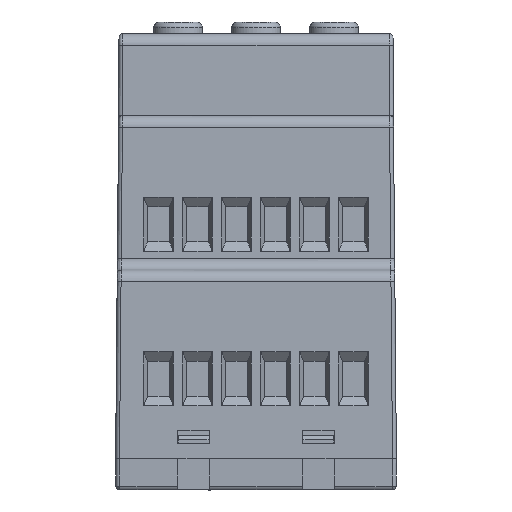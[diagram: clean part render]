
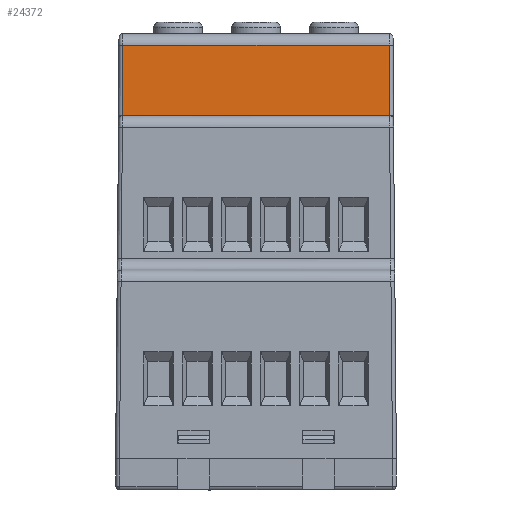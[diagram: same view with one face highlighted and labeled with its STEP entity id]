
A CAD part, left-side view. The second image highlights one B-rep face of the part: STEP entity #24372.
In plain terms, the highlighted planar face has unit normal (-1, 0, 0.009).
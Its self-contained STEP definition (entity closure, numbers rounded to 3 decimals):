
#328 = LINE ( 'NONE', #26505, #28980 ) ;
#534 = DIRECTION ( 'NONE',  ( 0., -1., 0. ) ) ;
#756 = ORIENTED_EDGE ( 'NONE', *, *, #30590, .T. ) ;
#1361 = ORIENTED_EDGE ( 'NONE', *, *, #30937, .T. ) ;
#1772 = ORIENTED_EDGE ( 'NONE', *, *, #13780, .T. ) ;
#2535 = VERTEX_POINT ( 'NONE', #28382 ) ;
#2544 = CARTESIAN_POINT ( 'NONE',  ( -22.6, 13.537, 42. ) ) ;
#2585 = EDGE_CURVE ( 'NONE', #9949, #2535, #23545, .T. ) ;
#2615 = EDGE_CURVE ( 'NONE', #15305, #15178, #21282, .T. ) ;
#3867 = DIRECTION ( 'NONE',  ( 0., 1., 0. ) ) ;
#4224 = VERTEX_POINT ( 'NONE', #15043 ) ;
#4784 = EDGE_CURVE ( 'NONE', #2535, #30645, #34139, .T. ) ;
#5043 = VERTEX_POINT ( 'NONE', #30327 ) ;
#5079 = VECTOR ( 'NONE', #24480, 1000. ) ;
#6227 = CARTESIAN_POINT ( 'NONE',  ( -22.609, 0., 41. ) ) ;
#6264 = DIRECTION ( 'NONE',  ( 0., -1., 0. ) ) ;
#6283 = CARTESIAN_POINT ( 'NONE',  ( -22.6, 13.5, 42. ) ) ;
#6290 = VERTEX_POINT ( 'NONE', #25815 ) ;
#6376 = LINE ( 'NONE', #26377, #35417 ) ;
#6411 = LINE ( 'NONE', #28872, #15811 ) ;
#6559 = CARTESIAN_POINT ( 'NONE',  ( -22.6, 0., 42. ) ) ;
#6770 = VECTOR ( 'NONE', #27694, 1000. ) ;
#6908 = EDGE_CURVE ( 'NONE', #30645, #6290, #6376, .T. ) ;
#7090 =( BOUNDED_CURVE ( )  B_SPLINE_CURVE ( 3, ( #22728, #11485, #28232, #8734 ),
 .UNSPECIFIED., .F., .F. ) 
 B_SPLINE_CURVE_WITH_KNOTS ( ( 4, 4 ),
 ( 3.142, 3.201 ),
 .UNSPECIFIED. ) 
 CURVE ( )  GEOMETRIC_REPRESENTATION_ITEM ( )  RATIONAL_B_SPLINE_CURVE ( ( 1., 1., 1., 1. ) ) 
 REPRESENTATION_ITEM ( '' )  );
#7202 = CARTESIAN_POINT ( 'NONE',  ( -22.6, -10.463, 42. ) ) ;
#7540 = EDGE_CURVE ( 'NONE', #15178, #9949, #36689, .T. ) ;
#8292 = EDGE_CURVE ( 'NONE', #28171, #33099, #18300, .T. ) ;
#8582 = VERTEX_POINT ( 'NONE', #30254 ) ;
#8734 = CARTESIAN_POINT ( 'NONE',  ( -22.599, 17.15, 42. ) ) ;
#9293 = ORIENTED_EDGE ( 'NONE', *, *, #28602, .T. ) ;
#9851 = ORIENTED_EDGE ( 'NONE', *, *, #13733, .T. ) ;
#9949 = VERTEX_POINT ( 'NONE', #6283 ) ;
#9994 = VERTEX_POINT ( 'NONE', #17667 ) ;
#10115 = LINE ( 'NONE', #33524, #13686 ) ;
#10227 = EDGE_CURVE ( 'NONE', #23403, #12608, #328, .T. ) ;
#10280 = VECTOR ( 'NONE', #534, 1000. ) ;
#10321 = ORIENTED_EDGE ( 'NONE', *, *, #24559, .T. ) ;
#11031 = CARTESIAN_POINT ( 'NONE',  ( -22.521, 17.071, 51.013 ) ) ;
#11485 = CARTESIAN_POINT ( 'NONE',  ( -22.6, 17.13, 42. ) ) ;
#11694 = ORIENTED_EDGE ( 'NONE', *, *, #8292, .T. ) ;
#12463 = CARTESIAN_POINT ( 'NONE',  ( -22.6, -10.5, 42. ) ) ;
#12608 = VERTEX_POINT ( 'NONE', #11031 ) ;
#13686 = VECTOR ( 'NONE', #36636, 1000. ) ;
#13733 = EDGE_CURVE ( 'NONE', #27254, #23403, #6411, .T. ) ;
#13780 = EDGE_CURVE ( 'NONE', #5043, #26873, #23417, .T. ) ;
#14088 = CARTESIAN_POINT ( 'NONE',  ( -22.6, 17.12, 42. ) ) ;
#14357 = DIRECTION ( 'NONE',  ( 0.009, 0.009, 1. ) ) ;
#14506 = ORIENTED_EDGE ( 'NONE', *, *, #27917, .F. ) ;
#14770 = CARTESIAN_POINT ( 'NONE',  ( -22.6, 18., 42. ) ) ;
#15043 = CARTESIAN_POINT ( 'NONE',  ( -22.599, 17.15, 42. ) ) ;
#15062 = LINE ( 'NONE', #20669, #24846 ) ;
#15178 = VERTEX_POINT ( 'NONE', #2544 ) ;
#15196 = CARTESIAN_POINT ( 'NONE',  ( -22.609, 10.535, 41. ) ) ;
#15305 = VERTEX_POINT ( 'NONE', #14088 ) ;
#15334 = DIRECTION ( 'NONE',  ( -0.009, -0.035, -0.999 ) ) ;
#15598 = CARTESIAN_POINT ( 'NONE',  ( -22.6, 18., 42. ) ) ;
#15794 = EDGE_CURVE ( 'NONE', #8582, #9994, #15062, .T. ) ;
#15801 = VERTEX_POINT ( 'NONE', #20538 ) ;
#15811 = VECTOR ( 'NONE', #14357, 1000. ) ;
#16947 = DIRECTION ( 'NONE',  ( -0.009, 0.009, -1. ) ) ;
#17169 = VECTOR ( 'NONE', #16947, 1000. ) ;
#17598 = AXIS2_PLACEMENT_3D ( 'NONE', #6559, #35296, #29440 ) ;
#17667 = CARTESIAN_POINT ( 'NONE',  ( -22.609, -13.465, 41. ) ) ;
#18300 = LINE ( 'NONE', #25549, #33952 ) ;
#19675 = ORIENTED_EDGE ( 'NONE', *, *, #2615, .T. ) ;
#20492 = DIRECTION ( 'NONE',  ( 0., -1., 0. ) ) ;
#20538 = CARTESIAN_POINT ( 'NONE',  ( -22.6, -10.5, 42. ) ) ;
#20669 = CARTESIAN_POINT ( 'NONE',  ( -22.609, 0., 41. ) ) ;
#21282 = LINE ( 'NONE', #28876, #30670 ) ;
#21487 = ORIENTED_EDGE ( 'NONE', *, *, #4784, .T. ) ;
#22326 = CARTESIAN_POINT ( 'NONE',  ( -22.521, 17.071, 51.013 ) ) ;
#22538 = EDGE_CURVE ( 'NONE', #15801, #8582, #35685, .T. ) ;
#22635 = VECTOR ( 'NONE', #32189, 1000. ) ;
#22728 = CARTESIAN_POINT ( 'NONE',  ( -22.6, 17.12, 42. ) ) ;
#22989 = LINE ( 'NONE', #22326, #17169 ) ;
#23296 = CARTESIAN_POINT ( 'NONE',  ( -22.6, -17.136, 42. ) ) ;
#23370 = ORIENTED_EDGE ( 'NONE', *, *, #22538, .T. ) ;
#23403 = VERTEX_POINT ( 'NONE', #25757 ) ;
#23417 = LINE ( 'NONE', #15598, #5079 ) ;
#23545 = LINE ( 'NONE', #28504, #32046 ) ;
#23674 = LINE ( 'NONE', #14770, #29904 ) ;
#23689 = PLANE ( 'NONE',  #17598 ) ;
#24372 = ADVANCED_FACE ( 'NONE', ( #27560 ), #23689, .T. ) ;
#24480 = DIRECTION ( 'NONE',  ( 0., -1., 0. ) ) ;
#24559 = EDGE_CURVE ( 'NONE', #9994, #28171, #10115, .T. ) ;
#24589 = CARTESIAN_POINT ( 'NONE',  ( -22.6, 0., 42. ) ) ;
#24603 = LINE ( 'NONE', #29318, #10280 ) ;
#24846 = VECTOR ( 'NONE', #34774, 1000. ) ;
#24954 = ORIENTED_EDGE ( 'NONE', *, *, #7540, .T. ) ;
#25361 = ORIENTED_EDGE ( 'NONE', *, *, #33857, .T. ) ;
#25549 = CARTESIAN_POINT ( 'NONE',  ( -22.6, 0., 42. ) ) ;
#25757 = CARTESIAN_POINT ( 'NONE',  ( -22.521, -17.071, 51.013 ) ) ;
#25815 = CARTESIAN_POINT ( 'NONE',  ( -22.6, 10.5, 42. ) ) ;
#26044 = ORIENTED_EDGE ( 'NONE', *, *, #6908, .T. ) ;
#26377 = CARTESIAN_POINT ( 'NONE',  ( -22.609, 10.535, 41. ) ) ;
#26505 = CARTESIAN_POINT ( 'NONE',  ( -22.521, 0., 51.013 ) ) ;
#26575 = VECTOR ( 'NONE', #34442, 1000. ) ;
#26578 = CARTESIAN_POINT ( 'NONE',  ( -22.6, 0., 42. ) ) ;
#26873 = VERTEX_POINT ( 'NONE', #7202 ) ;
#27254 = VERTEX_POINT ( 'NONE', #23296 ) ;
#27560 = FACE_OUTER_BOUND ( 'NONE', #36763, .T. ) ;
#27694 = DIRECTION ( 'NONE',  ( 0., -1., 0. ) ) ;
#27917 = EDGE_CURVE ( 'NONE', #15305, #4224, #7090, .T. ) ;
#28099 = VECTOR ( 'NONE', #15334, 1000. ) ;
#28171 = VERTEX_POINT ( 'NONE', #35583 ) ;
#28232 = CARTESIAN_POINT ( 'NONE',  ( -22.6, 17.14, 42. ) ) ;
#28382 = CARTESIAN_POINT ( 'NONE',  ( -22.609, 13.465, 41. ) ) ;
#28504 = CARTESIAN_POINT ( 'NONE',  ( -22.6, 13.5, 42. ) ) ;
#28508 = LINE ( 'NONE', #26578, #22635 ) ;
#28590 = ORIENTED_EDGE ( 'NONE', *, *, #10227, .T. ) ;
#28602 = EDGE_CURVE ( 'NONE', #26873, #15801, #24603, .T. ) ;
#28856 = ORIENTED_EDGE ( 'NONE', *, *, #2585, .T. ) ;
#28872 = CARTESIAN_POINT ( 'NONE',  ( -22.6, -17.15, 42. ) ) ;
#28876 = CARTESIAN_POINT ( 'NONE',  ( -22.6, 0., 42. ) ) ;
#28980 = VECTOR ( 'NONE', #3867, 1000. ) ;
#29007 = DIRECTION ( 'NONE',  ( 0.009, -0.035, 0.999 ) ) ;
#29318 = CARTESIAN_POINT ( 'NONE',  ( -22.6, 0., 42. ) ) ;
#29440 = DIRECTION ( 'NONE',  ( 0.009, 0., 1. ) ) ;
#29904 = VECTOR ( 'NONE', #6264, 1000. ) ;
#30254 = CARTESIAN_POINT ( 'NONE',  ( -22.609, -10.535, 41. ) ) ;
#30327 = CARTESIAN_POINT ( 'NONE',  ( -22.6, 10.463, 42. ) ) ;
#30541 = ORIENTED_EDGE ( 'NONE', *, *, #15794, .T. ) ;
#30590 = EDGE_CURVE ( 'NONE', #6290, #5043, #28508, .T. ) ;
#30645 = VERTEX_POINT ( 'NONE', #15196 ) ;
#30670 = VECTOR ( 'NONE', #20492, 1000. ) ;
#30937 = EDGE_CURVE ( 'NONE', #33099, #27254, #23674, .T. ) ;
#32046 = VECTOR ( 'NONE', #34220, 1000. ) ;
#32189 = DIRECTION ( 'NONE',  ( 0., -1., 0. ) ) ;
#33099 = VERTEX_POINT ( 'NONE', #34272 ) ;
#33524 = CARTESIAN_POINT ( 'NONE',  ( -22.609, -13.465, 41. ) ) ;
#33857 = EDGE_CURVE ( 'NONE', #12608, #4224, #22989, .T. ) ;
#33952 = VECTOR ( 'NONE', #33999, 1000. ) ;
#33999 = DIRECTION ( 'NONE',  ( 0., -1., 0. ) ) ;
#34139 = LINE ( 'NONE', #6227, #26575 ) ;
#34220 = DIRECTION ( 'NONE',  ( -0.009, -0.035, -0.999 ) ) ;
#34272 = CARTESIAN_POINT ( 'NONE',  ( -22.6, -13.537, 42. ) ) ;
#34442 = DIRECTION ( 'NONE',  ( 0., -1., 0. ) ) ;
#34774 = DIRECTION ( 'NONE',  ( 0., -1., 0. ) ) ;
#35296 = DIRECTION ( 'NONE',  ( -1., 0., 0.009 ) ) ;
#35417 = VECTOR ( 'NONE', #29007, 1000. ) ;
#35583 = CARTESIAN_POINT ( 'NONE',  ( -22.6, -13.5, 42. ) ) ;
#35685 = LINE ( 'NONE', #12463, #28099 ) ;
#36636 = DIRECTION ( 'NONE',  ( 0.009, -0.035, 0.999 ) ) ;
#36689 = LINE ( 'NONE', #24589, #6770 ) ;
#36763 = EDGE_LOOP ( 'NONE', ( #19675, #24954, #28856, #21487, #26044, #756, #1772, #9293, #23370, #30541, #10321, #11694, #1361, #9851, #28590, #25361, #14506 ) ) ;
